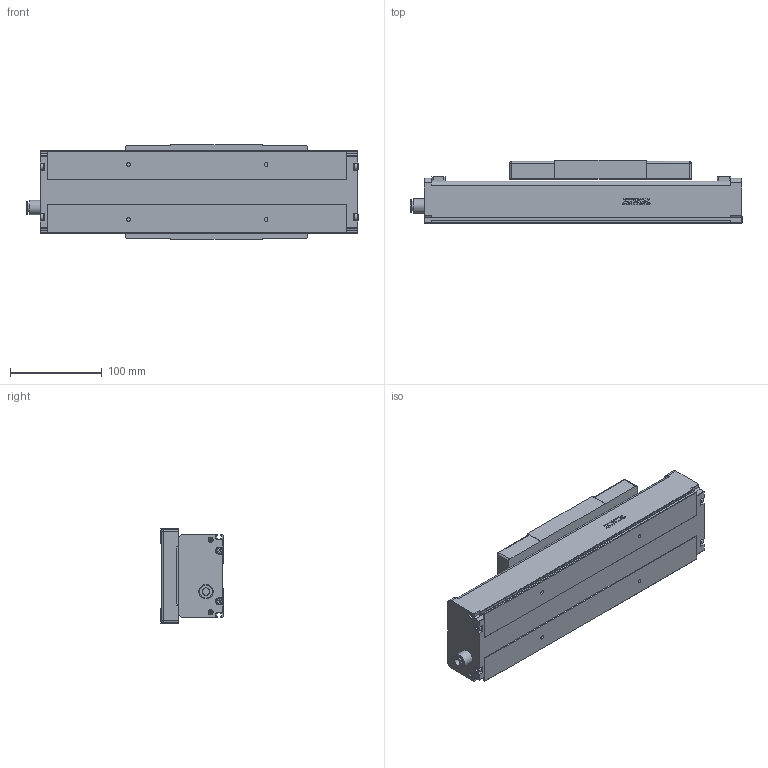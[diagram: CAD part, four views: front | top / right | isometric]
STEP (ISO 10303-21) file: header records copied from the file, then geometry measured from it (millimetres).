
FILE_DESCRIPTION(/* description */ (''),/* implementation_level */ '2;1');
FILE_NAME(/* name */ 'D:\混合母檔20191031\混和母檔\混和母檔\bin\Debug\Download\3D\KS90-10C-50AF0\KS90-10C-50AF0.stp',/* time_stamp */ '2019-11-04T14:38:06+08:00',/* author */ ('user'),/* organization */ (''),/* preprocessor_version */ 'ST-DEVELOPER v16.13',/* originating_system */ 'Autodesk Inventor 2018',/* authorisation */ '');
FILE_SCHEMA (('AUTOMOTIVE_DESIGN { 1 0 10303 214 3 1 1 }'));
Length unit declared in the file: millimetre
Products named in the file (3): KS90-10C-50AF0; KS90-F0; KS90-SL
Assembly tree (2 placements, depth 2):
  KS90-10C-50AF0
    KS90-F0
    KS90-SL
Bounding box: 361.6 x 68.5 x 102.4 mm (x, y, z)
Volume: 837389.9 mm3; surface area: 265605.2 mm2
Topology: 3 solids, 13 shells, 1011 faces, 2766 edges, 1824 vertices
Faces by surface type: plane 563, cylinder 140, bspline 136, cone 120, torus 48, sphere 4
Full cylindrical faces by diameter (mm): 2.113 x2, 2.459 x8, 2.5 x4, 2.693 x8, 3 x12, 3.242 x6, 3.5 x8, 4 x7, 4.134 x4, 4.5 x8, 4.917 x4, 5.5 x12, 6 x3, 7 x4, 8 x2, 10.437 x1, 11 x1, 11.5 x1, 14 x1, 15.538 x1, 28 x1, 30 x1
Entity records: 37657 total; most frequent: CARTESIAN_POINT 14018, ORIENTED_EDGE 4990, DIRECTION 4412, EDGE_CURVE 2495, VERTEX_POINT 1717, LINE 1498, VECTOR 1498, AXIS2_PLACEMENT_3D 1457
